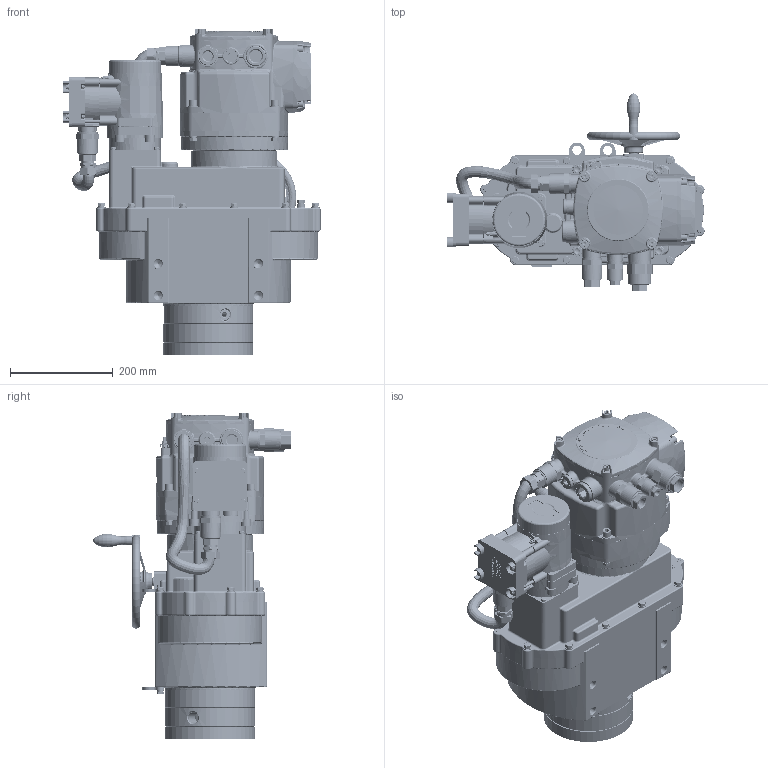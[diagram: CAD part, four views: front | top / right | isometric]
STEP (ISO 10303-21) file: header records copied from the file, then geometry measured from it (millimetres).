
FILE_DESCRIPTION(('THIS FILE CONTAINS SOME STEP INSTANCES'),'1');
FILE_NAME('421321_120ÑÁ Ìåõàíèçì ÌÝÎÔ-1000 1600Å2-IIÂÒ4-08Ê (ñ ÊÈÌ-2).stp','2015-11-12T15:29:54',('UNDEFINED'),('UNDEFINED'),'T-FLEX CAD STEP converter','T-FLEX CAD','');
FILE_SCHEMA(('CONFIG_CONTROL_DESIGN'));
Length unit declared in the file: metre
Products named in the file (1276): 3D 鐨飹懤艜_48-392; 3D 鐨飹懤艜_48-391; 3D 鐨飹懤艜_48-390; 3D 鐨飹懤艜_48-389; 3D 鐨飹懤艜_48-388; 3D 鐨飹懤艜_48-387; 3D 鐨飹懤艜_48-386; 3D 鐨飹懤艜_48-385; 3D 鐨飹懤艜_48-384; 3D 鐨飹懤艜_48-383; 3D 鐨飹懤艜_48-382; 3D 鐨飹懤艜_48-381; 3D 鐨飹懤艜_48-380; 3D 鐨飹懤艜_48-379; 3D 鐨飹懤艜_48-378; 3D 鐨飹懤艜_48-377; 3D 鐨飹懤艜_48-376; 3D 鐨飹懤艜_48-375; 3D 鐨飹懤艜_48-374; 3D 鐨飹懤艜_48-373; 3D 鐨飹懤艜_48-372; 3D 鐨飹懤艜_48-371; 3D 鐨飹懤艜_48-370; 3D 鐨飹懤艜_48-369; 3D 鐨飹懤艜_48-368; 3D 鐨飹懤艜_48-367; 3D 鐨飹懤艜_48-366; 3D 鐨飹懤艜_48-365; 3D 鐨飹懤艜_48-364; 3D 鐨飹懤艜_48-363; 3D 鐨飹懤艜_48-362; 3D 鐨飹懤艜_48-361; 3D 鐨飹懤艜_48-360; 3D 鐨飹懤艜_48-359; 3D 鐨飹懤艜_48-358; 3D 鐨飹懤艜_48-357; 3D 鐨飹懤艜_48-356; 3D 鐨飹懤艜_48-355; 3D 鐨飹懤艜_48-354; 3D 鐨飹懤艜_48-353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
Assembly tree (1275 placements, depth 2):
  (unnamed)
    3D 鐨飹懤艜_48-392
    3D 鐨飹懤艜_48-391
    3D 鐨飹懤艜_48-390
    3D 鐨飹懤艜_48-389
    3D 鐨飹懤艜_48-388
    3D 鐨飹懤艜_48-387
    3D 鐨飹懤艜_48-386
    3D 鐨飹懤艜_48-385
    3D 鐨飹懤艜_48-384
    3D 鐨飹懤艜_48-383
    3D 鐨飹懤艜_48-382
    3D 鐨飹懤艜_48-381
    3D 鐨飹懤艜_48-380
    3D 鐨飹懤艜_48-379
    3D 鐨飹懤艜_48-378
    3D 鐨飹懤艜_48-377
    3D 鐨飹懤艜_48-376
    3D 鐨飹懤艜_48-375
    3D 鐨飹懤艜_48-374
    3D 鐨飹懤艜_48-373
    3D 鐨飹懤艜_48-372
    3D 鐨飹懤艜_48-371
    3D 鐨飹懤艜_48-370
    3D 鐨飹懤艜_48-369
    3D 鐨飹懤艜_48-368
    3D 鐨飹懤艜_48-367
    3D 鐨飹懤艜_48-366
    3D 鐨飹懤艜_48-365
    3D 鐨飹懤艜_48-364
    3D 鐨飹懤艜_48-363
    3D 鐨飹懤艜_48-362
    3D 鐨飹懤艜_48-361
    3D 鐨飹懤艜_48-360
    3D 鐨飹懤艜_48-359
    3D 鐨飹懤艜_48-358
    3D 鐨飹懤艜_48-357
    3D 鐨飹懤艜_48-356
    3D 鐨飹懤艜_48-355
    3D 鐨飹懤艜_48-354
    3D 鐨飹懤艜_48-353
    3D 鐨飹懤艜_48-352
    3D 鐨飹懤艜_48-351
    3D 鐨飹懤艜_48-350
    3D 鐨飹懤艜_48-349
    3D 鐨飹懤艜_48-348
    3D 鐨飹懤艜_48-347
    3D 鐨飹懤艜_48-346
    3D 鐨飹懤艜_48-345
    3D 鐨飹懤艜_48-344
    3D 鐨飹懤艜_48-343
    3D 鐨飹懤艜_48-342
    3D 鐨飹懤艜_48-341
    3D 鐨飹懤艜_48-340
    3D 鐨飹懤艜_48-339
    3D 鐨飹懤艜_48-338
    3D 鐨飹懤艜_48-337
    3D 鐨飹懤艜_48-336
    3D 鐨飹懤艜_48-335
    3D 鐨飹懤艜_48-334
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Bounding box: 499.79 x 383.77 x 634.5 mm (x, y, z)
Volume: 19124207.1 mm3; surface area: 4853699 mm2
Topology: 1275 solids, 1275 shells, 24518 faces, 57707 edges, 36613 vertices
Faces by surface type: plane 11551, cylinder 5894, bspline 3293, cone 2070, torus 1372, sphere 338
Full cylindrical faces by diameter (mm): 0.41 x4, 0.494 x2, 0.5 x6, 0.501 x2, 0.502 x4, 0.75 x65, 0.992 x6, 1.002 x2, 1.006 x2, 1.5 x17, 1.567 x4, 1.6 x1, 1.7 x14, 1.8 x10, 1.9 x4, 2 x19, 2.1 x2, 2.25 x65, 2.3 x1, 2.459 x50, 2.5 x16, 2.7 x1, 3 x107, 3.2 x66, 3.242 x18, 3.3 x2, 3.4 x46, 3.5 x4, 3.8 x4, 4 x117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
Entity records: 1060132 total; most frequent: CARTESIAN_POINT 531442, ORIENTED_EDGE 109606, DIRECTION 86939, EDGE_CURVE 54803, VERTEX_POINT 36218, AXIS2_PLACEMENT_3D 29709, EDGE_LOOP 29637, LINE 27521
